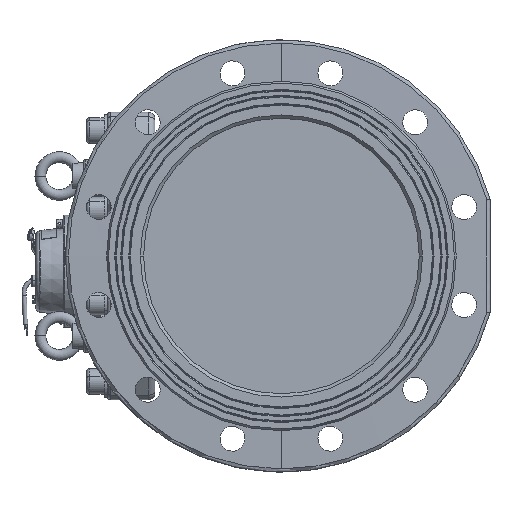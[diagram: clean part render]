
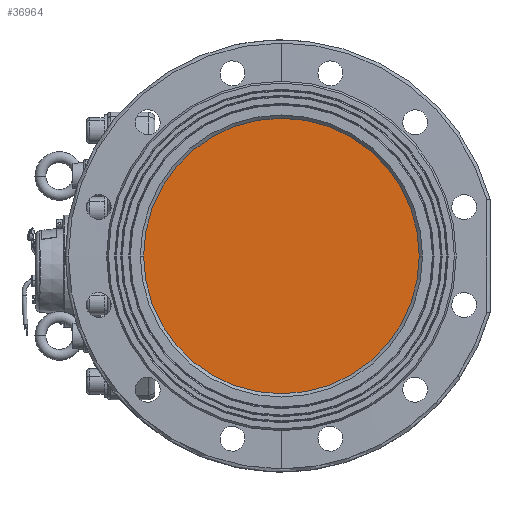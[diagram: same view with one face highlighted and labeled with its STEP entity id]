
A CAD part, left-side view. The second image highlights one B-rep face of the part: STEP entity #36964.
In plain terms, the highlighted planar face has unit normal (-1, 0, 0).
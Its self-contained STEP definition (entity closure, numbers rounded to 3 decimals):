
#5799 = DIRECTION ( 'NONE',  ( 1., 0., 0. ) ) ;
#13910 = DIRECTION ( 'NONE',  ( 0., -1., 0. ) ) ;
#18274 = CARTESIAN_POINT ( 'NONE',  ( -222., 0., 0. ) ) ;
#21659 = DIRECTION ( 'NONE',  ( 0., -1., 0. ) ) ;
#36964 = ADVANCED_FACE ( 'NONE', ( #127923 ), #55935, .F. ) ;
#36985 = AXIS2_PLACEMENT_3D ( 'NONE', #61502, #53497, #13910 ) ;
#37758 = ORIENTED_EDGE ( 'NONE', *, *, #77677, .T. ) ;
#46036 = DIRECTION ( 'NONE',  ( 0., 1., 0. ) ) ;
#52676 = CARTESIAN_POINT ( 'NONE',  ( -222., 0., 0. ) ) ;
#53497 = DIRECTION ( 'NONE',  ( -1., 0., 0. ) ) ;
#55935 = PLANE ( 'NONE',  #76321 ) ;
#61502 = CARTESIAN_POINT ( 'NONE',  ( -222., 0., 0. ) ) ;
#65147 = VERTEX_POINT ( 'NONE', #94763 ) ;
#73573 = VERTEX_POINT ( 'NONE', #85825 ) ;
#76321 = AXIS2_PLACEMENT_3D ( 'NONE', #18274, #5799, #46036 ) ;
#77677 = EDGE_CURVE ( 'NONE', #73573, #65147, #89720, .T. ) ;
#85825 = CARTESIAN_POINT ( 'NONE',  ( -222., 127.5, 0. ) ) ;
#87319 = EDGE_LOOP ( 'NONE', ( #89852, #37758 ) ) ;
#89720 = CIRCLE ( 'NONE', #36985, 127.5 ) ;
#89852 = ORIENTED_EDGE ( 'NONE', *, *, #110233, .T. ) ;
#94763 = CARTESIAN_POINT ( 'NONE',  ( -222., -127.5, 0. ) ) ;
#110233 = EDGE_CURVE ( 'NONE', #65147, #73573, #125985, .T. ) ;
#112802 = DIRECTION ( 'NONE',  ( -1., 0., 0. ) ) ;
#121680 = AXIS2_PLACEMENT_3D ( 'NONE', #52676, #112802, #21659 ) ;
#125985 = CIRCLE ( 'NONE', #121680, 127.5 ) ;
#127923 = FACE_OUTER_BOUND ( 'NONE', #87319, .T. ) ;
